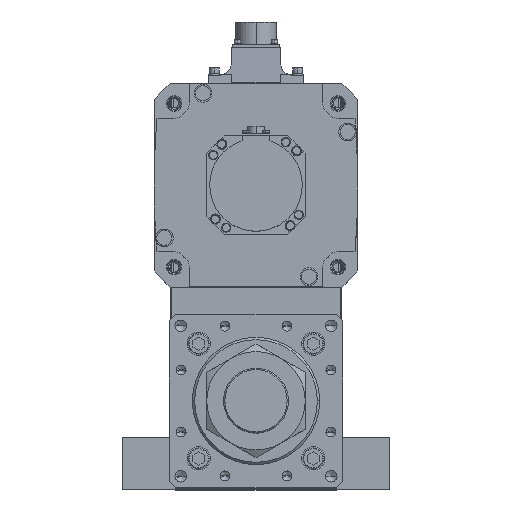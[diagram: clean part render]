
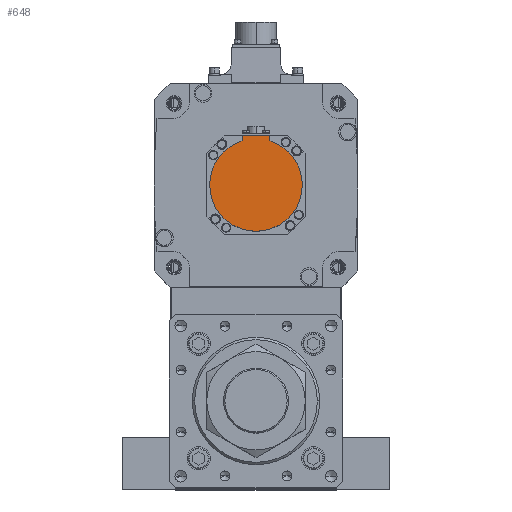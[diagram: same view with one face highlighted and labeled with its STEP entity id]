
A CAD part, top view. The second image highlights one B-rep face of the part: STEP entity #648.
In plain terms, the highlighted planar face has unit normal (0, 0, 1) as drawn and (0, 0, -1) by its records, which use the part's own axes.
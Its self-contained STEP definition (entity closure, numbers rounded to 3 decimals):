
#209 = CARTESIAN_POINT ( 'NONE',  ( 0., 0., -162.5 ) ) ;
#648 = ADVANCED_FACE ( 'NONE', ( #33283 ), #10145, .F. ) ;
#4573 = CIRCLE ( 'NONE', #19730, 40. ) ;
#8791 = LINE ( 'NONE', #39893, #40078 ) ;
#9454 = ORIENTED_EDGE ( 'NONE', *, *, #21843, .F. ) ;
#9502 = EDGE_CURVE ( 'NONE', #45033, #49771, #50191, .T. ) ;
#9991 = DIRECTION ( 'NONE',  ( 1., 0., 0. ) ) ;
#10145 = PLANE ( 'NONE',  #24791 ) ;
#11895 = CARTESIAN_POINT ( 'NONE',  ( -12., -42.5, -162.5 ) ) ;
#13737 = ORIENTED_EDGE ( 'NONE', *, *, #9502, .F. ) ;
#14468 = VERTEX_POINT ( 'NONE', #11895 ) ;
#15037 = EDGE_CURVE ( 'NONE', #14468, #48676, #51162, .T. ) ;
#15891 = VECTOR ( 'NONE', #26719, 1000. ) ;
#16329 = CARTESIAN_POINT ( 'NONE',  ( 12., -1.249, -162.5 ) ) ;
#16353 = VERTEX_POINT ( 'NONE', #25815 ) ;
#18486 = DIRECTION ( 'NONE',  ( 1., 0., 0. ) ) ;
#19597 = VECTOR ( 'NONE', #29416, 1000. ) ;
#19730 = AXIS2_PLACEMENT_3D ( 'NONE', #209, #37268, #28506 ) ;
#19987 = EDGE_CURVE ( 'NONE', #16353, #14468, #8791, .T. ) ;
#21843 = EDGE_CURVE ( 'NONE', #25218, #48676, #4573, .T. ) ;
#23283 = DIRECTION ( 'NONE',  ( -1., 0., 0. ) ) ;
#24791 = AXIS2_PLACEMENT_3D ( 'NONE', #47678, #26841, #18486 ) ;
#25218 = VERTEX_POINT ( 'NONE', #35960 ) ;
#25463 = CIRCLE ( 'NONE', #51333, 40. ) ;
#25807 = CARTESIAN_POINT ( 'NONE',  ( 0., 0., -162.5 ) ) ;
#25815 = CARTESIAN_POINT ( 'NONE',  ( 12., -42.5, -162.5 ) ) ;
#26235 = EDGE_CURVE ( 'NONE', #49771, #25218, #25463, .T. ) ;
#26719 = DIRECTION ( 'NONE',  ( 0., 1., 0. ) ) ;
#26841 = DIRECTION ( 'NONE',  ( 0., 0., 1. ) ) ;
#28506 = DIRECTION ( 'NONE',  ( 1., 0., 0. ) ) ;
#29416 = DIRECTION ( 'NONE',  ( 0., 1., 0. ) ) ;
#29447 = ORIENTED_EDGE ( 'NONE', *, *, #26235, .F. ) ;
#33283 = FACE_OUTER_BOUND ( 'NONE', #36648, .T. ) ;
#35646 = CARTESIAN_POINT ( 'NONE',  ( -12., -38.158, -162.5 ) ) ;
#35960 = CARTESIAN_POINT ( 'NONE',  ( -40., 0., -162.5 ) ) ;
#36648 = EDGE_LOOP ( 'NONE', ( #50846, #9454, #29447, #13737, #45191, #40339 ) ) ;
#36805 = DIRECTION ( 'NONE',  ( 0., 0., 1. ) ) ;
#37268 = DIRECTION ( 'NONE',  ( 0., 0., 1. ) ) ;
#37361 = DIRECTION ( 'NONE',  ( 1., 0., 0. ) ) ;
#38565 = DIRECTION ( 'NONE',  ( 0., 0., 1. ) ) ;
#39893 = CARTESIAN_POINT ( 'NONE',  ( 0., -42.5, -162.5 ) ) ;
#40078 = VECTOR ( 'NONE', #23283, 1000. ) ;
#40339 = ORIENTED_EDGE ( 'NONE', *, *, #19987, .T. ) ;
#40696 = CARTESIAN_POINT ( 'NONE',  ( 12., -38.158, -162.5 ) ) ;
#41381 = CARTESIAN_POINT ( 'NONE',  ( 40., 0., -162.5 ) ) ;
#45033 = VERTEX_POINT ( 'NONE', #40696 ) ;
#45191 = ORIENTED_EDGE ( 'NONE', *, *, #47152, .F. ) ;
#47152 = EDGE_CURVE ( 'NONE', #16353, #45033, #49668, .T. ) ;
#47678 = CARTESIAN_POINT ( 'NONE',  ( 0., -1.249, -162.5 ) ) ;
#48676 = VERTEX_POINT ( 'NONE', #35646 ) ;
#49668 = LINE ( 'NONE', #16329, #19597 ) ;
#49771 = VERTEX_POINT ( 'NONE', #41381 ) ;
#50191 = CIRCLE ( 'NONE', #51110, 40. ) ;
#50846 = ORIENTED_EDGE ( 'NONE', *, *, #15037, .T. ) ;
#51086 = CARTESIAN_POINT ( 'NONE',  ( -12., -40.329, -162.5 ) ) ;
#51110 = AXIS2_PLACEMENT_3D ( 'NONE', #54018, #36805, #37361 ) ;
#51162 = LINE ( 'NONE', #51086, #15891 ) ;
#51333 = AXIS2_PLACEMENT_3D ( 'NONE', #25807, #38565, #9991 ) ;
#54018 = CARTESIAN_POINT ( 'NONE',  ( 0., 0., -162.5 ) ) ;
